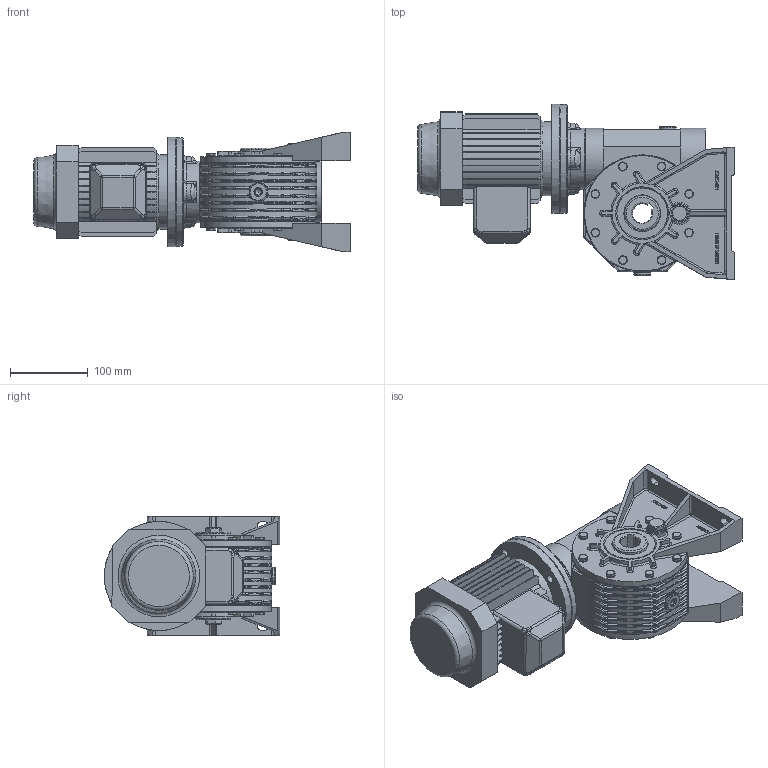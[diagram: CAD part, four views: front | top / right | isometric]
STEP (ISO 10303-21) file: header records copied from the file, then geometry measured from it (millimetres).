
FILE_DESCRIPTION((''),'2;1');
FILE_NAME('Y:\Archivi Inventor\Prog_01\GRAND_30\Figurini\MRV30 sito\63\MRV30_P3_63_B5.stp','2013-02-06T08:56:19',('tech3'),(''),'Autodesk Inventor 2013','Autodesk Inventor 2013','');
FILE_SCHEMA(('AUTOMOTIVE_DESIGN { 1 0 10303 214 1 1 1 1 }'));
Length unit declared in the file: millimetre
Products named in the file (16): MRV30_63_B5; MRV30; 0103001-A2 fig; 0103008.A1 fig F=25; PARAOLIO 45x65x10; RCA_52x7; Guarnizione 3_8 GAS; Tappo 3_8 GAS_esagn_incsst; 0103010-A0 fig; 0103029; DIN EN 24017 M6 x 20; Tappo3_8 GAS; 0103028; UNI 5931 M 8 x  25; 0103006; motori B5 63
Assembly tree (41 placements, depth 3):
  MRV30_63_B5
    MRV30
      0103001-A2 fig
      0103008.A1 fig F=25
      PARAOLIO 45x65x10  x2
      RCA_52x7
      Guarnizione 3_8 GAS  x4
      Tappo 3_8 GAS_esagn_incsst  x2
      0103010-A0 fig  x2
      0103029  x2
      DIN EN 24017 M6 x 20  x16
      Tappo3_8 GAS  x2
      0103028
      UNI 5931 M 8 x  25  x4
    0103006
    motori B5 63
Bounding box: 405.9 x 225 x 152.7 mm (x, y, z)
Volume: 4266688.2 mm3; surface area: 658528.2 mm2
Topology: 40 solids, 43 shells, 2555 faces, 6283 edges, 3876 vertices
Faces by surface type: plane 1302, cylinder 608, bspline 292, torus 161, cone 160, sphere 32
Full cylindrical faces by diameter (mm): 2 x2, 4.917 x16, 6 x16, 6.5 x32, 6.647 x4, 8 x6, 8.5 x8, 8.88 x16, 9 x4, 10 x4, 11 x17, 13 x4, 13.046 x2, 14.95 x4, 16.3 x4, 16.5 x2, 22 x8, 25 x3, 43 x1, 45 x4, 45.76 x1, 50.881 x2, 52 x6, 55 x1, 60.5 x2, 65 x4, 75 x2, 77 x1, 78 x1, 79 x1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
Entity records: 57816 total; most frequent: CARTESIAN_POINT 18091, ORIENTED_EDGE 7918, DIRECTION 7848, EDGE_CURVE 3959, AXIS2_PLACEMENT_3D 2851, VERTEX_POINT 2542, VECTOR 2146, LINE 2146
